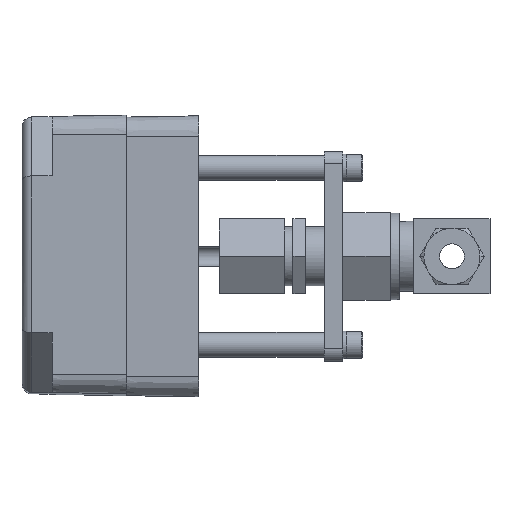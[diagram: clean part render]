
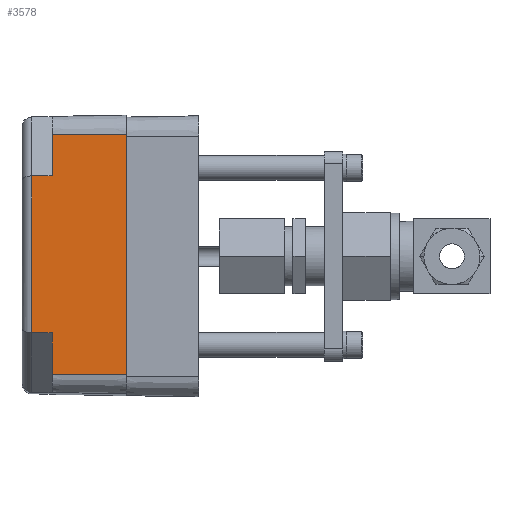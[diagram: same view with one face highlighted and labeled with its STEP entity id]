
A CAD part, left-side view. The second image highlights one B-rep face of the part: STEP entity #3578.
In plain terms, the highlighted planar face has unit normal (-1, 0.018, 0.005).
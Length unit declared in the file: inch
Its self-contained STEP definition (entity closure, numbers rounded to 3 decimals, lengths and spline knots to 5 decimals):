
#639 = VERTEX_POINT ( 'NONE', #11795 ) ;
#728 = VERTEX_POINT ( 'NONE', #10121 ) ;
#759 = VECTOR ( 'NONE', #12251, 39.37008 ) ;
#1329 = CARTESIAN_POINT ( 'NONE',  ( -2.0787, 0.73724, -1.13301 ) ) ;
#1336 = DIRECTION ( 'NONE',  ( 0.017, 1., 0. ) ) ;
#1945 = VECTOR ( 'NONE', #1336, 39.37008 ) ;
#2051 = CARTESIAN_POINT ( 'NONE',  ( -2.06578, 1.47724, -1.13308 ) ) ;
#2956 = VECTOR ( 'NONE', #6000, 39.37008 ) ;
#2972 = FACE_OUTER_BOUND ( 'NONE', #11011, .T. ) ;
#2996 = PLANE ( 'NONE',  #4778 ) ;
#2998 = CARTESIAN_POINT ( 'NONE',  ( -2.06054, 1.77724, -1.13311 ) ) ;
#3019 = DIRECTION ( 'NONE',  ( -1., 0.017, 0.005 ) ) ;
#3021 = DIRECTION ( 'NONE',  ( 0.005, 0., 1. ) ) ;
#3327 = LINE ( 'NONE', #7900, #759 ) ;
#3503 = CARTESIAN_POINT ( 'NONE',  ( -2.04944, 1.79156, 0.84827 ) ) ;
#3560 = VECTOR ( 'NONE', #13386, 39.37008 ) ;
#3578 = ADVANCED_FACE ( 'NONE', ( #2972 ), #2996, .T. ) ;
#3639 = CARTESIAN_POINT ( 'NONE',  ( -2.05832, 1.77423, -0.71721 ) ) ;
#4531 = LINE ( 'NONE', #9065, #14354 ) ;
#4537 = LINE ( 'NONE', #9071, #3560 ) ;
#4778 = AXIS2_PLACEMENT_3D ( 'NONE', #2998, #3019, #3021 ) ;
#4884 = CARTESIAN_POINT ( 'NONE',  ( -2.05998, 1.67898, -0.71789 ) ) ;
#5029 = CARTESIAN_POINT ( 'NONE',  ( -2.0514, 1.67898, 0.8491 ) ) ;
#6000 = DIRECTION ( 'NONE',  ( 0.005, 0., 1. ) ) ;
#6647 = VERTEX_POINT ( 'NONE', #12440 ) ;
#6652 = DIRECTION ( 'NONE',  ( 0.005, 0., 1. ) ) ;
#7152 = LINE ( 'NONE', #11586, #1945 ) ;
#7515 = CARTESIAN_POINT ( 'NONE',  ( -2.06556, 0.73724, 1.2644 ) ) ;
#7900 = CARTESIAN_POINT ( 'NONE',  ( -2.06578, 1.47724, -1.13308 ) ) ;
#7959 = EDGE_CURVE ( 'NONE', #12377, #11967, #4531, .T. ) ;
#7976 = EDGE_CURVE ( 'NONE', #9438, #12377, #13456, .T. ) ;
#8041 = EDGE_CURVE ( 'NONE', #11967, #728, #13584, .T. ) ;
#8062 = DIRECTION ( 'NONE',  ( 0.017, 1., -0.007 ) ) ;
#8076 = EDGE_CURVE ( 'NONE', #6647, #8291, #8272, .T. ) ;
#8197 = DIRECTION ( 'NONE',  ( -0.017, -1., -0.007 ) ) ;
#8245 = VECTOR ( 'NONE', #8197, 39.37008 ) ;
#8272 = LINE ( 'NONE', #1329, #2956 ) ;
#8291 = VERTEX_POINT ( 'NONE', #7515 ) ;
#8389 = EDGE_CURVE ( 'NONE', #639, #9438, #3327, .T. ) ;
#8731 = EDGE_CURVE ( 'NONE', #12703, #728, #12165, .T. ) ;
#9065 = CARTESIAN_POINT ( 'NONE',  ( -2.06226, 1.67898, -1.1331 ) ) ;
#9071 = CARTESIAN_POINT ( 'NONE',  ( -2.06556, 0.73724, 1.2644 ) ) ;
#9438 = VERTEX_POINT ( 'NONE', #12972 ) ;
#9543 = ORIENTED_EDGE ( 'NONE', *, *, #7959, .T. ) ;
#9826 = EDGE_CURVE ( 'NONE', #6647, #12703, #7152, .T. ) ;
#10054 = ORIENTED_EDGE ( 'NONE', *, *, #14616, .T. ) ;
#10075 = ORIENTED_EDGE ( 'NONE', *, *, #8076, .T. ) ;
#10121 = CARTESIAN_POINT ( 'NONE',  ( -2.06351, 1.47724, -0.71933 ) ) ;
#10448 = ORIENTED_EDGE ( 'NONE', *, *, #8389, .T. ) ;
#10485 = ORIENTED_EDGE ( 'NONE', *, *, #7976, .T. ) ;
#10895 = ORIENTED_EDGE ( 'NONE', *, *, #9826, .F. ) ;
#10985 = ORIENTED_EDGE ( 'NONE', *, *, #8731, .F. ) ;
#11011 = EDGE_LOOP ( 'NONE', ( #10485, #9543, #11027, #10985, #10895, #10075, #10054, #10448 ) ) ;
#11027 = ORIENTED_EDGE ( 'NONE', *, *, #8041, .T. ) ;
#11586 = CARTESIAN_POINT ( 'NONE',  ( -2.0787, 0.73724, -1.13301 ) ) ;
#11795 = CARTESIAN_POINT ( 'NONE',  ( -2.05264, 1.47724, 1.26433 ) ) ;
#11902 = VECTOR ( 'NONE', #8062, 39.37008 ) ;
#11967 = VERTEX_POINT ( 'NONE', #4884 ) ;
#12165 = LINE ( 'NONE', #2051, #12981 ) ;
#12251 = DIRECTION ( 'NONE',  ( -0.005, 0., -1. ) ) ;
#12377 = VERTEX_POINT ( 'NONE', #5029 ) ;
#12440 = CARTESIAN_POINT ( 'NONE',  ( -2.0787, 0.73724, -1.13301 ) ) ;
#12598 = CARTESIAN_POINT ( 'NONE',  ( -2.06578, 1.47724, -1.13308 ) ) ;
#12703 = VERTEX_POINT ( 'NONE', #12598 ) ;
#12972 = CARTESIAN_POINT ( 'NONE',  ( -2.05491, 1.47724, 0.85058 ) ) ;
#12981 = VECTOR ( 'NONE', #6652, 39.37008 ) ;
#13378 = DIRECTION ( 'NONE',  ( -0.005, 0., -1. ) ) ;
#13386 = DIRECTION ( 'NONE',  ( 0.017, 1., 0. ) ) ;
#13456 = LINE ( 'NONE', #3503, #11902 ) ;
#13584 = LINE ( 'NONE', #3639, #8245 ) ;
#14354 = VECTOR ( 'NONE', #13378, 39.37008 ) ;
#14616 = EDGE_CURVE ( 'NONE', #8291, #639, #4537, .T. ) ;
